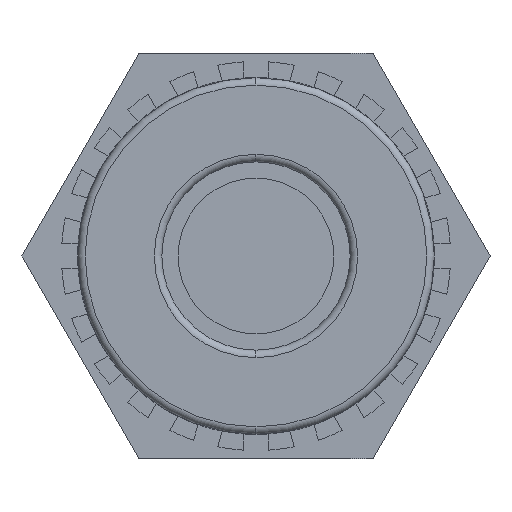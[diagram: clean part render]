
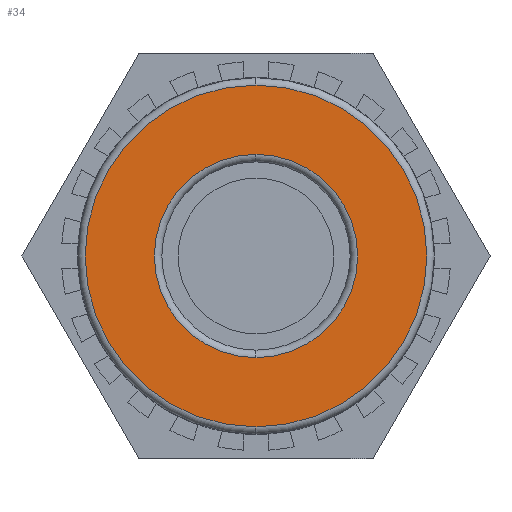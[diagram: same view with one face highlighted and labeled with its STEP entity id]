
A CAD part, left-side view. The second image highlights one B-rep face of the part: STEP entity #34.
In plain terms, the highlighted planar face has unit normal (-1, 0, 0).
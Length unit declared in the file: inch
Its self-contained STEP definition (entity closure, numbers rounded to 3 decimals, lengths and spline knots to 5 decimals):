
#2 = EDGE_LOOP ( 'NONE', ( #3225, #3222 ) ) ;
#34 = ADVANCED_FACE ( 'NONE', ( #1981, #1988 ), #3459, .F. ) ;
#144 = EDGE_LOOP ( 'NONE', ( #3238, #3220 ) ) ;
#411 = CIRCLE ( 'NONE', #1008, 0.685 ) ;
#497 = CIRCLE ( 'NONE', #1007, 0.4075 ) ;
#615 = CARTESIAN_POINT ( 'NONE',  ( -3.0684, 0., 0. ) ) ;
#616 = DIRECTION ( 'NONE',  ( -1., 0., 0. ) ) ;
#617 = DIRECTION ( 'NONE',  ( 0., 0., -1. ) ) ;
#635 = CARTESIAN_POINT ( 'NONE',  ( -3.0684, 0., 0. ) ) ;
#636 = DIRECTION ( 'NONE',  ( 1., 0., 0. ) ) ;
#637 = DIRECTION ( 'NONE',  ( 0., 0., -1. ) ) ;
#681 = CARTESIAN_POINT ( 'NONE',  ( -3.0684, 0., 0. ) ) ;
#682 = DIRECTION ( 'NONE',  ( -1., 0., 0. ) ) ;
#683 = DIRECTION ( 'NONE',  ( 0., 0., -1. ) ) ;
#771 = CIRCLE ( 'NONE', #1102, 0.4075 ) ;
#794 = CIRCLE ( 'NONE', #978, 0.685 ) ;
#978 = AXIS2_PLACEMENT_3D ( 'NONE', #681, #682, #683 ) ;
#1007 = AXIS2_PLACEMENT_3D ( 'NONE', #2317, #2318, #2319 ) ;
#1008 = AXIS2_PLACEMENT_3D ( 'NONE', #615, #616, #617 ) ;
#1009 = AXIS2_PLACEMENT_3D ( 'NONE', #3454, #3447, #3412 ) ;
#1102 = AXIS2_PLACEMENT_3D ( 'NONE', #635, #636, #637 ) ;
#1981 = FACE_BOUND ( 'NONE', #2, .T. ) ;
#1988 = FACE_OUTER_BOUND ( 'NONE', #144, .T. ) ;
#2317 = CARTESIAN_POINT ( 'NONE',  ( -3.0684, 0., 0. ) ) ;
#2318 = DIRECTION ( 'NONE',  ( 1., 0., 0. ) ) ;
#2319 = DIRECTION ( 'NONE',  ( 0., 0., -1. ) ) ;
#2629 = VERTEX_POINT ( 'NONE', #2960 ) ;
#2643 = VERTEX_POINT ( 'NONE', #2974 ) ;
#2688 = VERTEX_POINT ( 'NONE', #3100 ) ;
#2701 = VERTEX_POINT ( 'NONE', #3104 ) ;
#2960 = CARTESIAN_POINT ( 'NONE',  ( -3.0684, 0., -0.4075 ) ) ;
#2974 = CARTESIAN_POINT ( 'NONE',  ( -3.0684, 0., -0.685 ) ) ;
#3100 = CARTESIAN_POINT ( 'NONE',  ( -3.0684, 0., 0.685 ) ) ;
#3104 = CARTESIAN_POINT ( 'NONE',  ( -3.0684, 0., 0.4075 ) ) ;
#3220 = ORIENTED_EDGE ( 'NONE', *, *, #3726, .T. ) ;
#3222 = ORIENTED_EDGE ( 'NONE', *, *, #3709, .T. ) ;
#3225 = ORIENTED_EDGE ( 'NONE', *, *, #3839, .T. ) ;
#3238 = ORIENTED_EDGE ( 'NONE', *, *, #3788, .T. ) ;
#3412 = DIRECTION ( 'NONE',  ( 0., 0., -1. ) ) ;
#3447 = DIRECTION ( 'NONE',  ( 1., 0., 0. ) ) ;
#3454 = CARTESIAN_POINT ( 'NONE',  ( -3.0684, 0., 0. ) ) ;
#3459 = PLANE ( 'NONE',  #1009 ) ;
#3709 = EDGE_CURVE ( 'NONE', #2701, #2629, #771, .T. ) ;
#3726 = EDGE_CURVE ( 'NONE', #2688, #2643, #794, .T. ) ;
#3788 = EDGE_CURVE ( 'NONE', #2643, #2688, #411, .T. ) ;
#3839 = EDGE_CURVE ( 'NONE', #2629, #2701, #497, .T. ) ;
